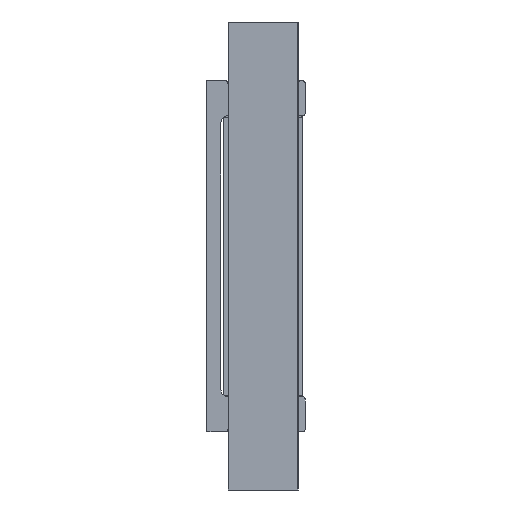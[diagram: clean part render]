
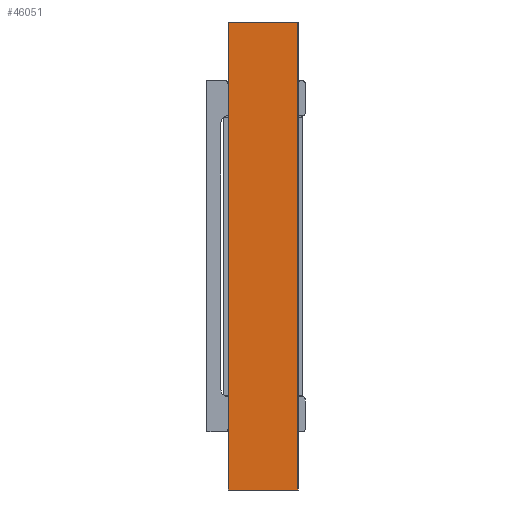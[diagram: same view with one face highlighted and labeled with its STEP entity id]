
A CAD part, front view. The second image highlights one B-rep face of the part: STEP entity #46051.
In plain terms, the highlighted planar face has unit normal (0, -1, 0).
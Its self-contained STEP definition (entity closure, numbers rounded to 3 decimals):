
#886 = EDGE_LOOP ( 'NONE', ( #2750, #19600, #52205, #59834 ) ) ;
#2608 = DIRECTION ( 'NONE',  ( -1., 0., 0. ) ) ;
#2750 = ORIENTED_EDGE ( 'NONE', *, *, #59530, .T. ) ;
#2957 = LINE ( 'NONE', #59304, #12696 ) ;
#3598 = CARTESIAN_POINT ( 'NONE',  ( 19.42, -1.84, -49.95 ) ) ;
#4855 = EDGE_CURVE ( 'NONE', #8919, #17975, #2957, .T. ) ;
#5547 = PLANE ( 'NONE',  #33332 ) ;
#6321 = CARTESIAN_POINT ( 'NONE',  ( 4.66, -1.84, -49.95 ) ) ;
#6967 = VECTOR ( 'NONE', #15832, 1000. ) ;
#7061 = LINE ( 'NONE', #6321, #47133 ) ;
#8919 = VERTEX_POINT ( 'NONE', #29861 ) ;
#12696 = VECTOR ( 'NONE', #2608, 1000. ) ;
#15832 = DIRECTION ( 'NONE',  ( -1., 0., 0. ) ) ;
#17975 = VERTEX_POINT ( 'NONE', #41636 ) ;
#19600 = ORIENTED_EDGE ( 'NONE', *, *, #4855, .T. ) ;
#21554 = CARTESIAN_POINT ( 'NONE',  ( 4.66, -1.84, -49.95 ) ) ;
#22737 = EDGE_CURVE ( 'NONE', #35983, #17975, #7061, .T. ) ;
#28298 = DIRECTION ( 'NONE',  ( 0., 1., 0. ) ) ;
#29288 = VECTOR ( 'NONE', #61384, 1000. ) ;
#29861 = CARTESIAN_POINT ( 'NONE',  ( 19.42, -1.84, 50. ) ) ;
#33332 = AXIS2_PLACEMENT_3D ( 'NONE', #39872, #28298, #62613 ) ;
#35983 = VERTEX_POINT ( 'NONE', #21554 ) ;
#37131 = CARTESIAN_POINT ( 'NONE',  ( 19.42, -1.84, -49.95 ) ) ;
#37467 = EDGE_CURVE ( 'NONE', #46610, #35983, #54260, .T. ) ;
#38293 = LINE ( 'NONE', #3598, #29288 ) ;
#39872 = CARTESIAN_POINT ( 'NONE',  ( 19.42, -1.84, -49.95 ) ) ;
#41027 = DIRECTION ( 'NONE',  ( 0., 0., 1. ) ) ;
#41636 = CARTESIAN_POINT ( 'NONE',  ( 4.66, -1.84, 50. ) ) ;
#46051 = ADVANCED_FACE ( 'NONE', ( #68218 ), #5547, .F. ) ;
#46610 = VERTEX_POINT ( 'NONE', #56128 ) ;
#47133 = VECTOR ( 'NONE', #41027, 1000. ) ;
#52205 = ORIENTED_EDGE ( 'NONE', *, *, #22737, .F. ) ;
#54260 = LINE ( 'NONE', #37131, #6967 ) ;
#56128 = CARTESIAN_POINT ( 'NONE',  ( 19.42, -1.84, -49.95 ) ) ;
#59304 = CARTESIAN_POINT ( 'NONE',  ( 4.66, -1.84, 50. ) ) ;
#59530 = EDGE_CURVE ( 'NONE', #46610, #8919, #38293, .T. ) ;
#59834 = ORIENTED_EDGE ( 'NONE', *, *, #37467, .F. ) ;
#61384 = DIRECTION ( 'NONE',  ( 0., 0., 1. ) ) ;
#62613 = DIRECTION ( 'NONE',  ( 1., 0., 0. ) ) ;
#68218 = FACE_OUTER_BOUND ( 'NONE', #886, .T. ) ;
